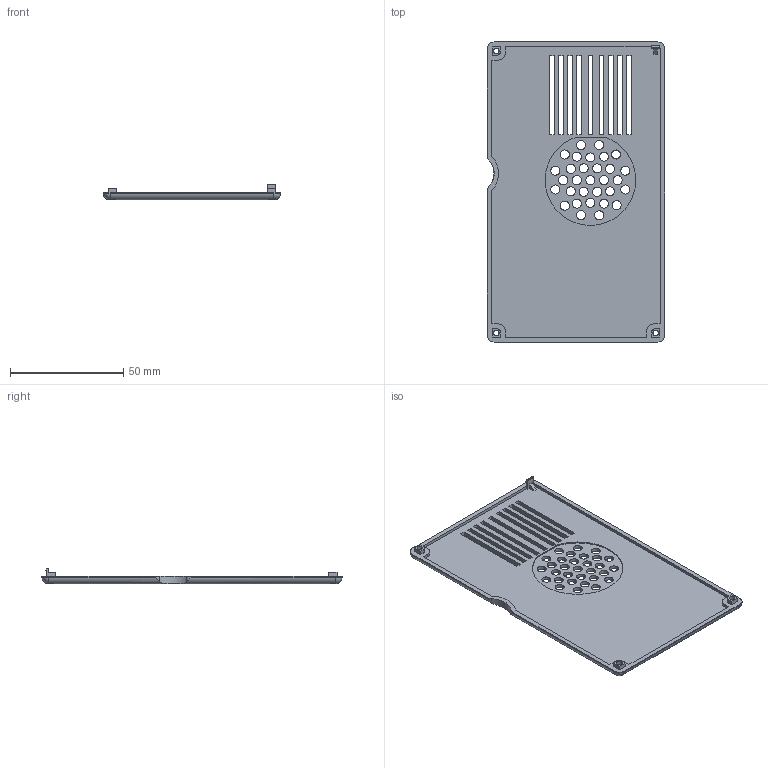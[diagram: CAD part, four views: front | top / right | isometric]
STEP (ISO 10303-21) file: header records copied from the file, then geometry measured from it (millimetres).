
FILE_DESCRIPTION (( 'STEP AP214' ), '1' );
FILE_NAME ('vim4_imx415_ts050_back_case_20_11_2024.STEP', '2024-11-20T03:19:31', ( '' ), ( '' ), 'SwSTEP 2.0', 'SolidWorks 2018', '' );
FILE_SCHEMA (( 'AUTOMOTIVE_DESIGN' ));
Length unit declared in the file: millimetre
Products named in the file (1): vim4_imx415_ts050_back_case_20_11_2024
Bounding box: 78.35 x 132.5 x 7 mm (x, y, z)
Volume: 18680.4 mm3; surface area: 22306.3 mm2
Topology: 1 solids, 1 shells, 187 faces, 533 edges, 349 vertices
Faces by surface type: cylinder 98, plane 85, sphere 4
Entity records: 6686 total; most frequent: CARTESIAN_POINT 1474, DIRECTION 1080, ORIENTED_EDGE 1058, EDGE_CURVE 529, AXIS2_PLACEMENT_3D 379, VERTEX_POINT 349, VECTOR 322, LINE 322
